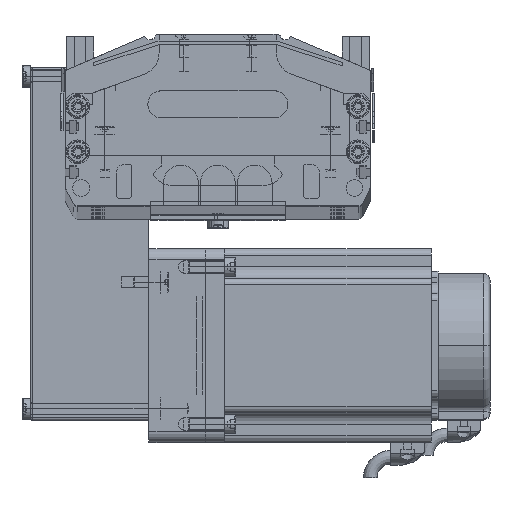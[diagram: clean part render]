
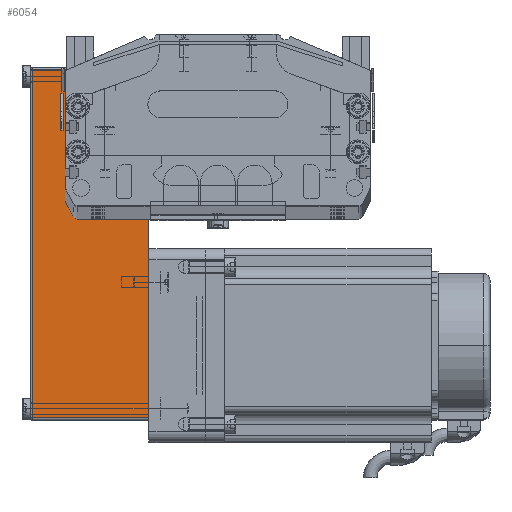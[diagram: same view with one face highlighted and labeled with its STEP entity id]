
A CAD part, top view. The second image highlights one B-rep face of the part: STEP entity #6054.
In plain terms, the highlighted planar face has unit normal (0, 0, 1) as drawn and (0, -1, 0) by its records, which use the part's own axes.
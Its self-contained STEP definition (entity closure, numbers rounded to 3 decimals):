
#5682 = EDGE_LOOP ( 'NONE', ( #6005, #7241, #7338, #6404 ) ) ;
#6005 = ORIENTED_EDGE ( 'NONE', *, *, #6069, .T. ) ;
#6036 = VERTEX_POINT ( 'NONE', #26777 ) ;
#6054 = ADVANCED_FACE ( 'NONE', ( #26776 ), #26973, .F. ) ;
#6067 = VERTEX_POINT ( 'NONE', #26818 ) ;
#6069 = EDGE_CURVE ( 'NONE', #6036, #6067, #26822, .T. ) ;
#6404 = ORIENTED_EDGE ( 'NONE', *, *, #6466, .T. ) ;
#6425 = EDGE_CURVE ( 'NONE', #6067, #6856, #27112, .T. ) ;
#6428 = EDGE_CURVE ( 'NONE', #6856, #6848, #27076, .T. ) ;
#6466 = EDGE_CURVE ( 'NONE', #6848, #6036, #27238, .T. ) ;
#6848 = VERTEX_POINT ( 'NONE', #27072 ) ;
#6856 = VERTEX_POINT ( 'NONE', #27067 ) ;
#7241 = ORIENTED_EDGE ( 'NONE', *, *, #6425, .T. ) ;
#7338 = ORIENTED_EDGE ( 'NONE', *, *, #6428, .T. ) ;
#26776 = FACE_OUTER_BOUND ( 'NONE', #5682, .T. ) ;
#26777 = CARTESIAN_POINT ( 'NONE',  ( -123.2, -40., 0. ) ) ;
#26818 = CARTESIAN_POINT ( 'NONE',  ( 31., -40., 0. ) ) ;
#26821 = CARTESIAN_POINT ( 'NONE',  ( 32., -40., 0. ) ) ;
#26822 = LINE ( 'NONE', #26821, #26927 ) ;
#26831 = DIRECTION ( 'NONE',  ( 0., 1., 0. ) ) ;
#26835 = AXIS2_PLACEMENT_3D ( 'NONE', #26861, #26831, #26935 ) ;
#26861 = CARTESIAN_POINT ( 'NONE',  ( 32., -40., 52.5 ) ) ;
#26926 = DIRECTION ( 'NONE',  ( 1., 0., 0. ) ) ;
#26927 = VECTOR ( 'NONE', #26926, 1000. ) ;
#26935 = DIRECTION ( 'NONE',  ( -1., 0., 0. ) ) ;
#26973 = PLANE ( 'NONE',  #26835 ) ;
#27016 = DIRECTION ( 'NONE',  ( -1., 0., 0. ) ) ;
#27029 = DIRECTION ( 'NONE',  ( 0., 0., 1. ) ) ;
#27030 = VECTOR ( 'NONE', #27029, 1000. ) ;
#27049 = DIRECTION ( 'NONE',  ( 0., 0., -1. ) ) ;
#27051 = VECTOR ( 'NONE', #27049, 1000. ) ;
#27053 = CARTESIAN_POINT ( 'NONE',  ( -123.2, -40., 52.5 ) ) ;
#27067 = CARTESIAN_POINT ( 'NONE',  ( 31., -40., 51.5 ) ) ;
#27072 = CARTESIAN_POINT ( 'NONE',  ( -123.2, -40., 51.5 ) ) ;
#27076 = LINE ( 'NONE', #27143, #27110 ) ;
#27110 = VECTOR ( 'NONE', #27016, 1000. ) ;
#27112 = LINE ( 'NONE', #27164, #27030 ) ;
#27143 = CARTESIAN_POINT ( 'NONE',  ( 32., -40., 51.5 ) ) ;
#27164 = CARTESIAN_POINT ( 'NONE',  ( 31., -40., 52.5 ) ) ;
#27238 = LINE ( 'NONE', #27053, #27051 ) ;
